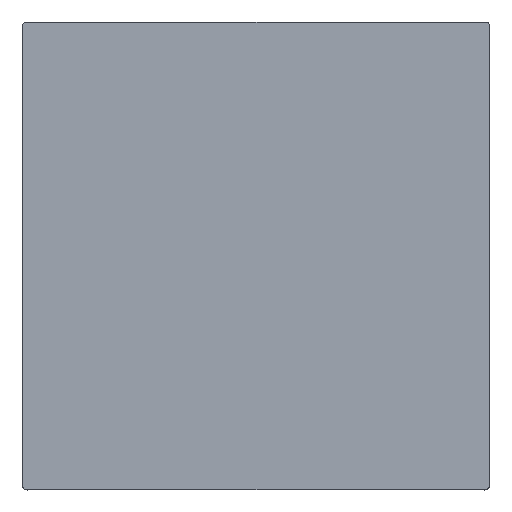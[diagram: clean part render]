
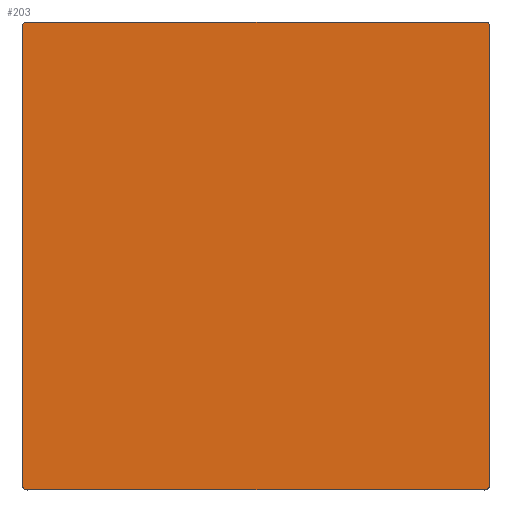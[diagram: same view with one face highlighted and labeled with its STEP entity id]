
A CAD part, top view. The second image highlights one B-rep face of the part: STEP entity #203.
In plain terms, the highlighted planar face has unit normal (0, 0, 1).
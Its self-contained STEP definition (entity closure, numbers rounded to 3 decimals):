
#203=ADVANCED_FACE($,(#377),#2252,.T.);
#377=FACE_OUTER_BOUND($,#575,.T.);
#575=EDGE_LOOP($,(#1226,#1227,#1228,#1229,#1230,#1231,#1232,#1233));
#1226=ORIENTED_EDGE($,*,*,#1764,.F.);
#1227=ORIENTED_EDGE($,*,*,#1757,.F.);
#1228=ORIENTED_EDGE($,*,*,#1763,.F.);
#1229=ORIENTED_EDGE($,*,*,#1756,.F.);
#1230=ORIENTED_EDGE($,*,*,#1762,.F.);
#1231=ORIENTED_EDGE($,*,*,#1748,.F.);
#1232=ORIENTED_EDGE($,*,*,#1750,.F.);
#1233=ORIENTED_EDGE($,*,*,#1758,.F.);
#1748=EDGE_CURVE($,#2044,#2057,#2443,.T.);
#1750=EDGE_CURVE($,#2045,#2044,#2630,.T.);
#1756=EDGE_CURVE($,#2052,#2051,#2447,.T.);
#1757=EDGE_CURVE($,#2054,#2053,#2448,.T.);
#1758=EDGE_CURVE($,#2055,#2045,#2449,.T.);
#1762=EDGE_CURVE($,#2057,#2052,#2636,.T.);
#1763=EDGE_CURVE($,#2051,#2054,#2637,.T.);
#1764=EDGE_CURVE($,#2053,#2055,#2638,.T.);
#2044=VERTEX_POINT($,#4927);
#2045=VERTEX_POINT($,#4928);
#2051=VERTEX_POINT($,#4934);
#2052=VERTEX_POINT($,#4935);
#2053=VERTEX_POINT($,#4936);
#2054=VERTEX_POINT($,#4937);
#2055=VERTEX_POINT($,#4938);
#2057=VERTEX_POINT($,#4940);
#2252=PLANE($,#2830);
#2443=B_SPLINE_CURVE_WITH_KNOTS($,1,(#4801,#4802),.UNSPECIFIED.,.F.,.F.,
(2,2),(15.,1485.),.UNSPECIFIED.);
#2447=B_SPLINE_CURVE_WITH_KNOTS($,1,(#4823,#4824),.UNSPECIFIED.,.F.,.F.,
(2,2),(15.,1485.),.UNSPECIFIED.);
#2448=B_SPLINE_CURVE_WITH_KNOTS($,1,(#4825,#4826),.UNSPECIFIED.,.F.,.F.,
(2,2),(15.,1485.),.UNSPECIFIED.);
#2449=B_SPLINE_CURVE_WITH_KNOTS($,1,(#4827,#4828),.UNSPECIFIED.,.F.,.F.,
(2,2),(15.,1485.),.UNSPECIFIED.);
#2630=(
BOUNDED_CURVE()
B_SPLINE_CURVE(2,(#4806,#4807,#4808),.UNSPECIFIED.,.F.,.F.)
B_SPLINE_CURVE_WITH_KNOTS((3,3),(-1.,0.),.UNSPECIFIED.)
CURVE()
GEOMETRIC_REPRESENTATION_ITEM()
RATIONAL_B_SPLINE_CURVE((1.,0.707,1.))
REPRESENTATION_ITEM($)
);
#2636=(
BOUNDED_CURVE()
B_SPLINE_CURVE(2,(#4838,#4839,#4840),.UNSPECIFIED.,.F.,.F.)
B_SPLINE_CURVE_WITH_KNOTS((3,3),(0.,1.),.UNSPECIFIED.)
CURVE()
GEOMETRIC_REPRESENTATION_ITEM()
RATIONAL_B_SPLINE_CURVE((1.,0.707,1.))
REPRESENTATION_ITEM($)
);
#2637=(
BOUNDED_CURVE()
B_SPLINE_CURVE(2,(#4841,#4842,#4843),.UNSPECIFIED.,.F.,.F.)
B_SPLINE_CURVE_WITH_KNOTS((3,3),(0.,1.),.UNSPECIFIED.)
CURVE()
GEOMETRIC_REPRESENTATION_ITEM()
RATIONAL_B_SPLINE_CURVE((1.,0.707,1.))
REPRESENTATION_ITEM($)
);
#2638=(
BOUNDED_CURVE()
B_SPLINE_CURVE(2,(#4844,#4845,#4846),.UNSPECIFIED.,.F.,.F.)
B_SPLINE_CURVE_WITH_KNOTS((3,3),(0.,1.),.UNSPECIFIED.)
CURVE()
GEOMETRIC_REPRESENTATION_ITEM()
RATIONAL_B_SPLINE_CURVE((1.,0.707,1.))
REPRESENTATION_ITEM($)
);
#2830=AXIS2_PLACEMENT_3D($,#4873,#2911,$);
#2911=DIRECTION($,(0.,0.,1.));
#4801=CARTESIAN_POINT($,(0.,15.,742.));
#4802=CARTESIAN_POINT($,(0.,1485.,742.));
#4806=CARTESIAN_POINT($,(15.,0.,742.));
#4807=CARTESIAN_POINT($,(0.,0.,742.));
#4808=CARTESIAN_POINT($,(0.,15.,742.));
#4823=CARTESIAN_POINT($,(15.,1500.,742.));
#4824=CARTESIAN_POINT($,(1485.,1500.,742.));
#4825=CARTESIAN_POINT($,(1500.,1485.,742.));
#4826=CARTESIAN_POINT($,(1500.,15.,742.));
#4827=CARTESIAN_POINT($,(1485.,0.,742.));
#4828=CARTESIAN_POINT($,(15.,0.,742.));
#4838=CARTESIAN_POINT($,(0.,1485.,742.));
#4839=CARTESIAN_POINT($,(0.,1500.,742.));
#4840=CARTESIAN_POINT($,(15.,1500.,742.));
#4841=CARTESIAN_POINT($,(1485.,1500.,742.));
#4842=CARTESIAN_POINT($,(1500.,1500.,742.));
#4843=CARTESIAN_POINT($,(1500.,1485.,742.));
#4844=CARTESIAN_POINT($,(1500.,15.,742.));
#4845=CARTESIAN_POINT($,(1500.,0.,742.));
#4846=CARTESIAN_POINT($,(1485.,0.,742.));
#4873=CARTESIAN_POINT($,(0.,0.,742.));
#4927=CARTESIAN_POINT($,(0.,15.,742.));
#4928=CARTESIAN_POINT($,(15.,0.,742.));
#4934=CARTESIAN_POINT($,(1485.,1500.,742.));
#4935=CARTESIAN_POINT($,(15.,1500.,742.));
#4936=CARTESIAN_POINT($,(1500.,15.,742.));
#4937=CARTESIAN_POINT($,(1500.,1485.,742.));
#4938=CARTESIAN_POINT($,(1485.,0.,742.));
#4940=CARTESIAN_POINT($,(0.,1485.,742.));
